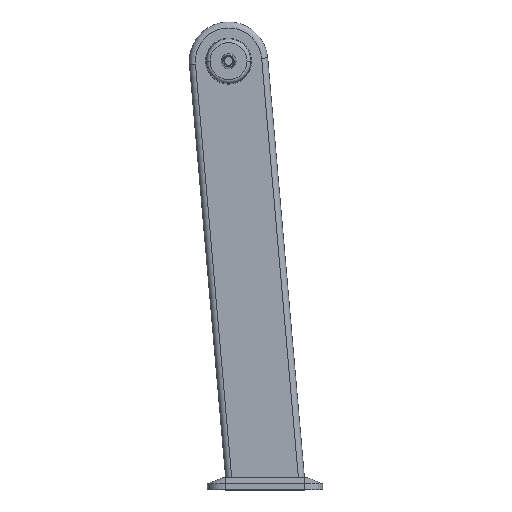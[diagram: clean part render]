
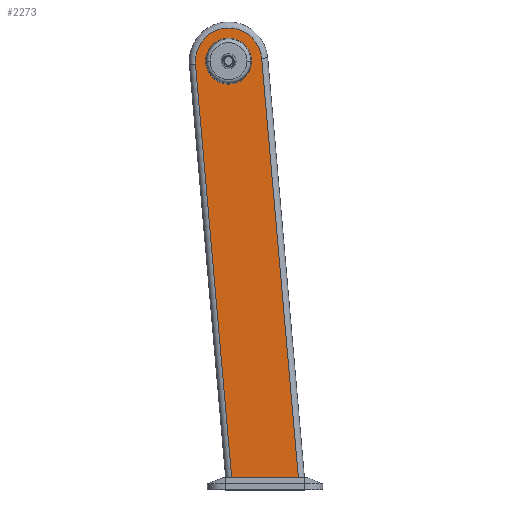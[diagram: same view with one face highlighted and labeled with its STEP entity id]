
A CAD part, top view. The second image highlights one B-rep face of the part: STEP entity #2273.
In plain terms, the highlighted planar face has unit normal (0, 0, 1).
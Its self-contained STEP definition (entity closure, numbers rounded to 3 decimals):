
#10 = CARTESIAN_POINT ( 'NONE',  ( -38., 0., 31.25 ) ) ;
#156 = CIRCLE ( 'NONE', #415, 38. ) ;
#179 = DIRECTION ( 'NONE',  ( 1., 0., 0. ) ) ;
#216 = CARTESIAN_POINT ( 'NONE',  ( -54.791, -4.794, 31.25 ) ) ;
#226 = AXIS2_PLACEMENT_3D ( 'NONE', #1419, #3106, #1695 ) ;
#271 = EDGE_LOOP ( 'NONE', ( #2146, #2530 ) ) ;
#390 = CARTESIAN_POINT ( 'NONE',  ( 6.831, -709.128, 31.25 ) ) ;
#407 = DIRECTION ( 'NONE',  ( 0.087, -0.996, 0. ) ) ;
#415 = AXIS2_PLACEMENT_3D ( 'NONE', #1183, #2900, #1454 ) ;
#613 = DIRECTION ( 'NONE',  ( 1., 0., 0. ) ) ;
#780 = LINE ( 'NONE', #1223, #1390 ) ;
#789 = CIRCLE ( 'NONE', #1648, 38. ) ;
#932 = CARTESIAN_POINT ( 'NONE',  ( 115.577, -690., 31.25 ) ) ;
#1172 = ORIENTED_EDGE ( 'NONE', *, *, #1593, .T. ) ;
#1183 = CARTESIAN_POINT ( 'NONE',  ( 0., 0., 31.25 ) ) ;
#1213 = CARTESIAN_POINT ( 'NONE',  ( 0., 0., 31.25 ) ) ;
#1223 = CARTESIAN_POINT ( 'NONE',  ( 54.791, 4.794, 31.25 ) ) ;
#1231 = CARTESIAN_POINT ( 'NONE',  ( 5.157, -690., 31.25 ) ) ;
#1259 = CARTESIAN_POINT ( 'NONE',  ( 38., 0., 31.25 ) ) ;
#1322 = FACE_BOUND ( 'NONE', #271, .T. ) ;
#1390 = VECTOR ( 'NONE', #2701, 1000. ) ;
#1400 = CARTESIAN_POINT ( 'NONE',  ( 0., 0., 31.25 ) ) ;
#1419 = CARTESIAN_POINT ( 'NONE',  ( 0., 0., 31.25 ) ) ;
#1454 = DIRECTION ( 'NONE',  ( 1., 0., 0. ) ) ;
#1475 = DIRECTION ( 'NONE',  ( 1., 0., 0. ) ) ;
#1484 = EDGE_CURVE ( 'NONE', #1656, #1676, #2665, .T. ) ;
#1488 = FACE_OUTER_BOUND ( 'NONE', #2664, .T. ) ;
#1519 = CARTESIAN_POINT ( 'NONE',  ( 54.791, 4.794, 31.25 ) ) ;
#1561 = VERTEX_POINT ( 'NONE', #1231 ) ;
#1578 = ORIENTED_EDGE ( 'NONE', *, *, #2939, .T. ) ;
#1593 = EDGE_CURVE ( 'NONE', #1561, #2945, #1826, .T. ) ;
#1641 = VERTEX_POINT ( 'NONE', #1259 ) ;
#1648 = AXIS2_PLACEMENT_3D ( 'NONE', #1213, #2927, #1475 ) ;
#1652 = ORIENTED_EDGE ( 'NONE', *, *, #3000, .T. ) ;
#1656 = VERTEX_POINT ( 'NONE', #1519 ) ;
#1676 = VERTEX_POINT ( 'NONE', #216 ) ;
#1695 = DIRECTION ( 'NONE',  ( 1., 0., 0. ) ) ;
#1768 = CARTESIAN_POINT ( 'NONE',  ( 0., -690., 31.25 ) ) ;
#1809 = VERTEX_POINT ( 'NONE', #10 ) ;
#1826 = LINE ( 'NONE', #1768, #2383 ) ;
#2146 = ORIENTED_EDGE ( 'NONE', *, *, #3235, .F. ) ;
#2170 = DIRECTION ( 'NONE',  ( 0., 0., 1. ) ) ;
#2273 = ADVANCED_FACE ( 'NONE', ( #1488, #1322 ), #2855, .T. ) ;
#2383 = VECTOR ( 'NONE', #179, 1000. ) ;
#2530 = ORIENTED_EDGE ( 'NONE', *, *, #3190, .F. ) ;
#2591 = AXIS2_PLACEMENT_3D ( 'NONE', #1400, #2170, #613 ) ;
#2664 = EDGE_LOOP ( 'NONE', ( #1652, #3025, #1578, #1172 ) ) ;
#2665 = CIRCLE ( 'NONE', #226, 55. ) ;
#2701 = DIRECTION ( 'NONE',  ( -0.087, 0.996, 0. ) ) ;
#2855 = PLANE ( 'NONE',  #2591 ) ;
#2900 = DIRECTION ( 'NONE',  ( 0., 0., 1. ) ) ;
#2913 = LINE ( 'NONE', #390, #3058 ) ;
#2927 = DIRECTION ( 'NONE',  ( 0., 0., 1. ) ) ;
#2939 = EDGE_CURVE ( 'NONE', #1676, #1561, #2913, .T. ) ;
#2945 = VERTEX_POINT ( 'NONE', #932 ) ;
#3000 = EDGE_CURVE ( 'NONE', #2945, #1656, #780, .T. ) ;
#3025 = ORIENTED_EDGE ( 'NONE', *, *, #1484, .T. ) ;
#3058 = VECTOR ( 'NONE', #407, 1000. ) ;
#3106 = DIRECTION ( 'NONE',  ( 0., 0., 1. ) ) ;
#3190 = EDGE_CURVE ( 'NONE', #1809, #1641, #156, .T. ) ;
#3235 = EDGE_CURVE ( 'NONE', #1641, #1809, #789, .T. ) ;
